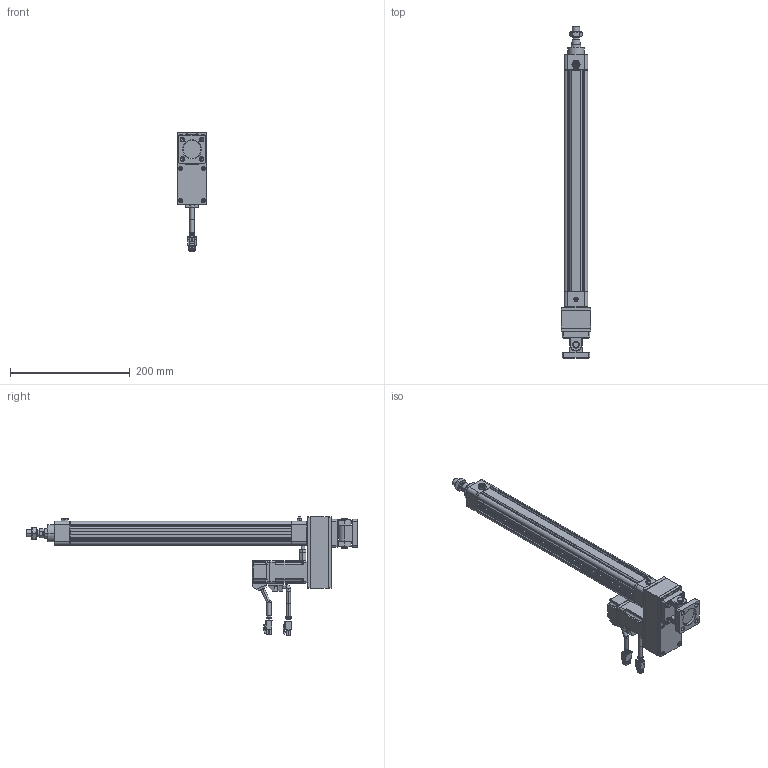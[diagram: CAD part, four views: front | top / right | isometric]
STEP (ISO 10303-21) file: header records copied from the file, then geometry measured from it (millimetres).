
FILE_DESCRIPTION((''),'2;1');
FILE_NAME('HE32-D-100-2-5_ASM','2020-05-18T',('ASUS20200'),(''),'CREO PARAMETRIC BY PTC INC, 2014190','CREO PARAMETRIC BY PTC INC, 2014190','');
FILE_SCHEMA(('CONFIG_CONTROL_DESIGN'));
Products named in the file (35): HE32-001-X1; HE32-002-X1; HE32-003-X1; 636ZZ; LGLM-M6-22; TF1622-20; HE32-P-011-X1; 1_1_AF0; 2_1; 3_1; 4_1; 5_1; 6_1; 7_1; ASM0001_ASM; M6X25; LM-M6-15; M6; SLM-01; YZ-M6X1; HE32-P-012-X2; HE32-P-014-X1; M3X35; F-SE32CB; F-SE32CB-XD; F-SE32CB_ASM; M6X16; F-SE32CA; M5X35; HE32-005-X1; HE32-004-X1; HE32-D-P-008-X1; TD-3; M3X16; HE32-D-100-2-5_ASM
Assembly tree (58 placements, depth 3):
  HE32-D-100-2-5_ASM
    HE32-001-X1
    HE32-002-X1
    HE32-003-X1
    636ZZ
    LGLM-M6-22  x8
    TF1622-20
    HE32-P-011-X1
    ASM0001_ASM
      1_1_AF0
      2_1
      3_1
      4_1
      5_1
      6_1
      7_1
    M6X25
    LM-M6-15
    M6
    SLM-01
    YZ-M6X1
    HE32-P-012-X2
    HE32-P-014-X1
    M3X35  x6
    F-SE32CB_ASM
      F-SE32CB
      F-SE32CB-XD
    M6X16  x4
    F-SE32CA
    M5X35  x4
    HE32-005-X1
    HE32-004-X1
    HE32-D-P-008-X1
    TD-3  x4
    M3X16  x4
Bounding box: 50 x 555 x 198.7 mm (x, y, z)
Volume: 702579 mm3; surface area: 314650.8 mm2
Topology: 56 solids, 90 shells, 3010 faces, 7136 edges, 4390 vertices
Faces by surface type: plane 1284, cylinder 825, cone 743, torus 122, bspline 18, sphere 18
Entity records: 72131 total; most frequent: CARTESIAN_POINT 13972, DIRECTION 12742, ORIENTED_EDGE 11364, EDGE_CURVE 5738, AXIS2_PLACEMENT_3D 4759, VERTEX_POINT 3558, VECTOR 3224, LINE 3224
